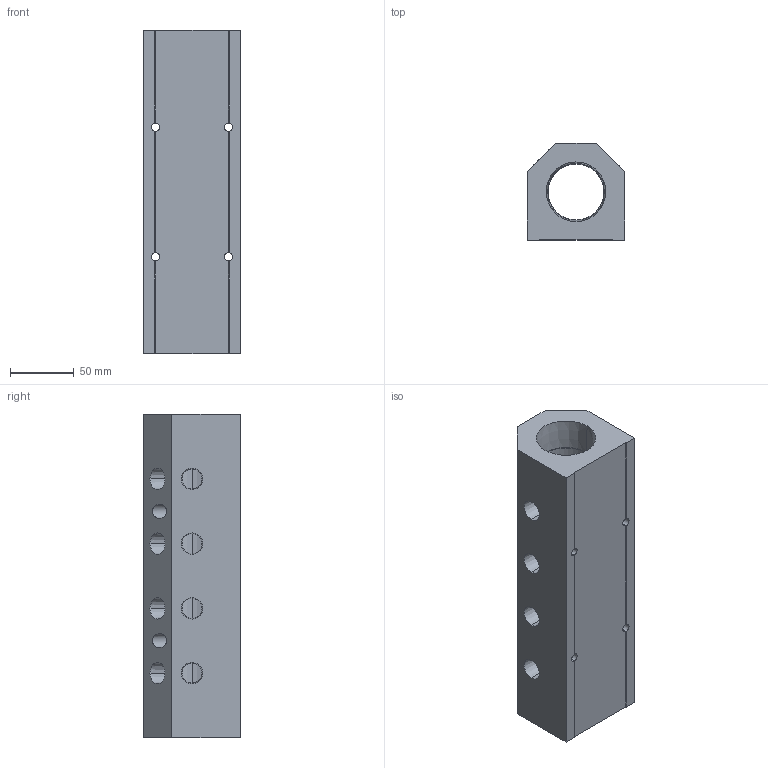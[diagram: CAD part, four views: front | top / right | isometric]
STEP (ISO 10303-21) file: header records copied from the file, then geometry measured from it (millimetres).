
FILE_DESCRIPTION (( 'STEP AP214' ), '1' );
FILE_NAME ('ALM4AB-N6N24-254R.step', '2022-02-07T07:57:57', ( '' ), ( '' ), 'SwSTEP 2.0', 'SolidWorks 2020', '' );
FILE_SCHEMA (( 'AUTOMOTIVE_DESIGN' ));
Length unit declared in the file: millimetre
Products named in the file (1): ALM4AB-N6N24-254R
Bounding box: 76.2 x 76.2 x 254 mm (x, y, z)
Volume: 911897.9 mm3; surface area: 122583 mm2
Topology: 1 solids, 1 shells, 321 faces, 851 edges, 562 vertices
Faces by surface type: plane 235, bspline 48, cone 20, cylinder 18
Entity records: 16764 total; most frequent: CARTESIAN_POINT 6079, ORIENTED_EDGE 1702, DIRECTION 1323, EDGE_CURVE 851, VECTOR 671, LINE 671, VERTEX_POINT 562, EDGE_LOOP 377
